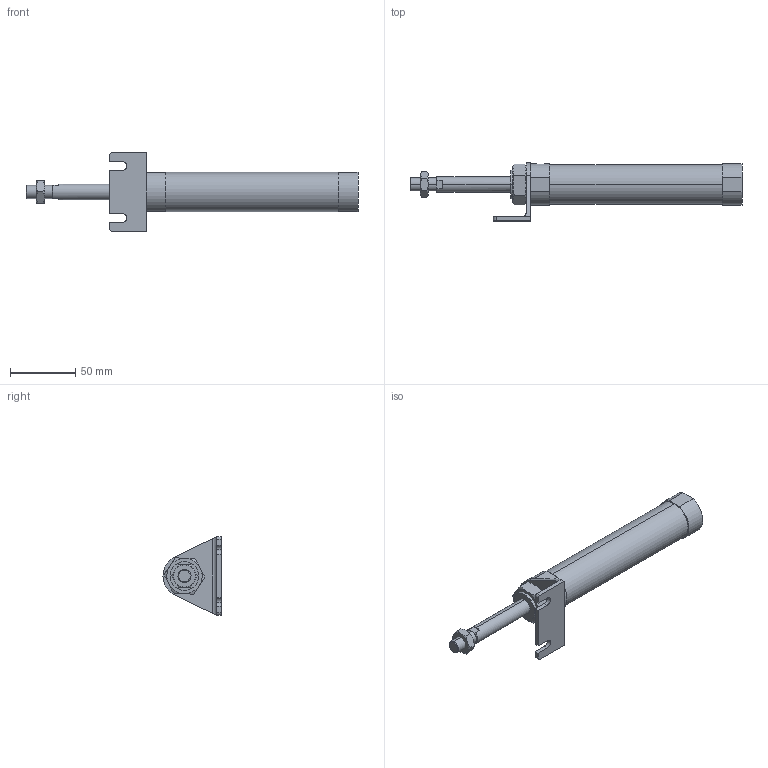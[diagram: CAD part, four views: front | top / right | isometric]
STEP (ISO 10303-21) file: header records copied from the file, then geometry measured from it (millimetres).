
FILE_DESCRIPTION (( 'STEP AP203' ), '1' );
FILE_NAME ('JGND0-25-50-L.STEP', '2016-08-04T02:11:20', ( '' ), ( '' ), 'SwSTEP 2.0', 'SolidWorks 2014', '' );
FILE_SCHEMA (( 'CONFIG_CONTROL_DESIGN' ));
Length unit declared in the file: millimetre
Products named in the file (5): J#0-25-50(P); JGND0-25-50-L; J#2-25-L
Assembly tree (4 placements, depth 2):
  JGND0-25-50-L
    J#0-25-50(P)
    (unnamed)
    (unnamed)
    J#2-25-L
Bounding box: 254 x 44.5 x 60 mm (x, y, z)
Volume: 142476 mm3; surface area: 31112.8 mm2
Topology: 4 solids, 4 shells, 111 faces, 258 edges, 157 vertices
Faces by surface type: plane 50, cylinder 31, torus 24, cone 6
Entity records: 3913 total; most frequent: CARTESIAN_POINT 911, DIRECTION 526, ORIENTED_EDGE 512, EDGE_CURVE 256, AXIS2_PLACEMENT_3D 208, VERTEX_POINT 157, EDGE_LOOP 121, FACE_OUTER_BOUND 111
